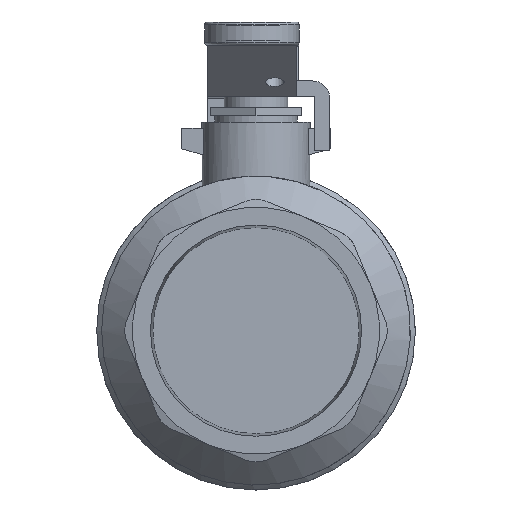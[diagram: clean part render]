
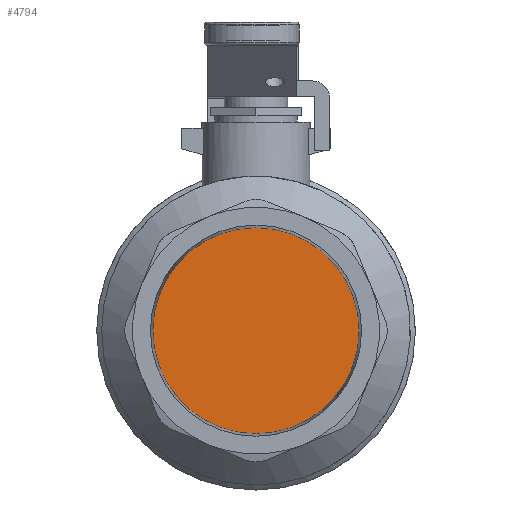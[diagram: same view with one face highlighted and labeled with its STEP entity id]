
A CAD part, left-side view. The second image highlights one B-rep face of the part: STEP entity #4794.
In plain terms, the highlighted free-form (B-spline) face has degree [1, 1] with [2, 2] control points.
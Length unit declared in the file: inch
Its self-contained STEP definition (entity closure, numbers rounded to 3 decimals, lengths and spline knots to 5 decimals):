
#4778=CARTESIAN_POINT('',(-0.0191,0.05824,1.59977));
#4779=CARTESIAN_POINT('',(-0.0191,-1.72154,1.59977));
#4780=CARTESIAN_POINT('',(-0.0191,0.05824,-0.18001));
#4781=CARTESIAN_POINT('',(-0.0191,-1.72154,-0.18001));
#4782=B_SPLINE_SURFACE_WITH_KNOTS('',1,1,((#4778,#4780),(#4779,#4781)),.UNSPECIFIED.,.F.,.F.,.U.,(2,2),(2,2),(0.0,1.77978),(0.0,1.77978),.UNSPECIFIED.);
#4783=CARTESIAN_POINT('',(-0.0191,0.05824,0.70988));
#4784=VERTEX_POINT('',#4783);
#4785=CARTESIAN_POINT('',(-0.0191,-0.83165,0.70988));
#4786=DIRECTION('',(1.0,0.0,0.0));
#4787=DIRECTION('',(0.0,1.0,0.0));
#4788=AXIS2_PLACEMENT_3D('',#4785,#4786,#4787);
#4789=CIRCLE('',#4788,0.88989);
#4790=EDGE_CURVE('',#4784,#4784,#4789,.T.);
#4791=ORIENTED_EDGE('',*,*,#4790,.F.);
#4792=EDGE_LOOP('',(#4791));
#4793=FACE_OUTER_BOUND('',#4792,.T.);
#4794=ADVANCED_FACE('',(#4793),#4782,.F.);
